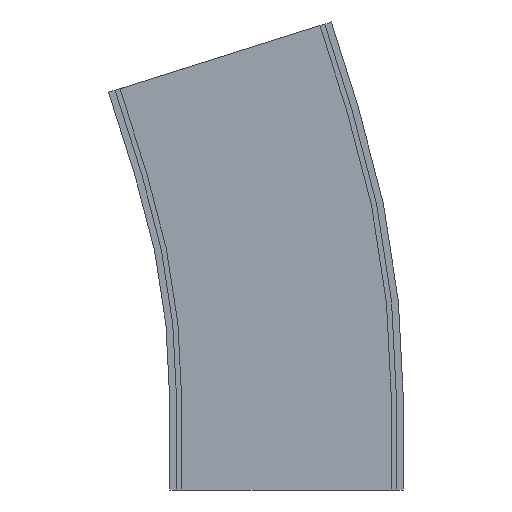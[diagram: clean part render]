
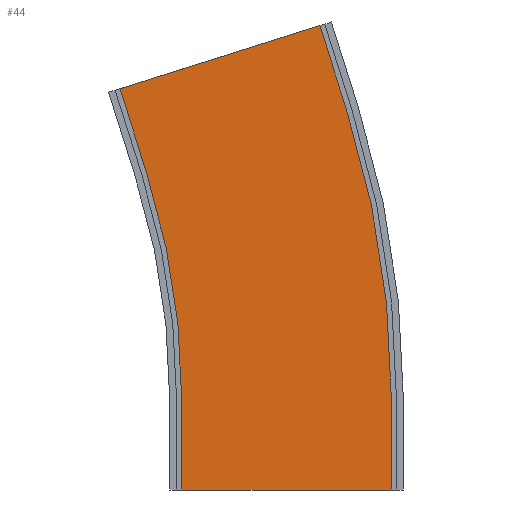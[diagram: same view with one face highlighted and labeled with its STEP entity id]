
A CAD part, left-side view. The second image highlights one B-rep face of the part: STEP entity #44.
In plain terms, the highlighted planar face has unit normal (-1, 0, 0).
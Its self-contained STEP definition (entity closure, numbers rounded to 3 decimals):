
#44 = ADVANCED_FACE ( 'NONE', ( #236 ), #1017, .F. ) ;
#58 = VECTOR ( 'NONE', #1293, 1000. ) ;
#82 = CIRCLE ( 'NONE', #93, 561.25 ) ;
#93 = AXIS2_PLACEMENT_3D ( 'NONE', #866, #443, #332 ) ;
#104 = DIRECTION ( 'NONE',  ( -1., 0., 0. ) ) ;
#133 = ORIENTED_EDGE ( 'NONE', *, *, #899, .F. ) ;
#200 = ORIENTED_EDGE ( 'NONE', *, *, #1327, .F. ) ;
#222 = DIRECTION ( 'NONE',  ( 0., -0.954, 0.301 ) ) ;
#226 = ORIENTED_EDGE ( 'NONE', *, *, #311, .F. ) ;
#236 = FACE_OUTER_BOUND ( 'NONE', #1047, .T. ) ;
#239 = ORIENTED_EDGE ( 'NONE', *, *, #564, .T. ) ;
#271 = DIRECTION ( 'NONE',  ( 0., 1., 0. ) ) ;
#311 = EDGE_CURVE ( 'NONE', #541, #547, #1405, .T. ) ;
#321 = EDGE_CURVE ( 'NONE', #1135, #1025, #710, .T. ) ;
#332 = DIRECTION ( 'NONE',  ( 0., 0., 1. ) ) ;
#419 = LINE ( 'NONE', #1034, #641 ) ;
#423 = CARTESIAN_POINT ( 'NONE',  ( -211.5, 500., 52.5 ) ) ;
#429 = CARTESIAN_POINT ( 'NONE',  ( -211.5, -61.25, 52.5 ) ) ;
#443 = DIRECTION ( 'NONE',  ( -1., 0., 0. ) ) ;
#455 = EDGE_CURVE ( 'NONE', #541, #1135, #778, .T. ) ;
#484 = CARTESIAN_POINT ( 'NONE',  ( -211.5, -19.487, 271.341 ) ) ;
#526 = CARTESIAN_POINT ( 'NONE',  ( -211.5, 61.25, 52.5 ) ) ;
#529 = ORIENTED_EDGE ( 'NONE', *, *, #455, .T. ) ;
#541 = VERTEX_POINT ( 'NONE', #526 ) ;
#547 = VERTEX_POINT ( 'NONE', #970 ) ;
#564 = EDGE_CURVE ( 'NONE', #1129, #724, #82, .T. ) ;
#571 = DIRECTION ( 'NONE',  ( 0., 0., -1. ) ) ;
#582 = DIRECTION ( 'NONE',  ( 0., 0., -1. ) ) ;
#598 = CARTESIAN_POINT ( 'NONE',  ( -211.5, -61.25, 52.5 ) ) ;
#607 = EDGE_CURVE ( 'NONE', #1242, #1312, #1318, .T. ) ;
#641 = VECTOR ( 'NONE', #1361, 1000. ) ;
#673 = VECTOR ( 'NONE', #582, 1000. ) ;
#676 = CARTESIAN_POINT ( 'NONE',  ( -211.5, -35.274, 221.271 ) ) ;
#682 = LINE ( 'NONE', #1061, #58 ) ;
#686 = LINE ( 'NONE', #1223, #860 ) ;
#710 = LINE ( 'NONE', #1186, #1272 ) ;
#724 = VERTEX_POINT ( 'NONE', #676 ) ;
#773 = AXIS2_PLACEMENT_3D ( 'NONE', #598, #815, #271 ) ;
#778 = LINE ( 'NONE', #1226, #673 ) ;
#815 = DIRECTION ( 'NONE',  ( 1., 0., 0. ) ) ;
#860 = VECTOR ( 'NONE', #571, 1000. ) ;
#866 = CARTESIAN_POINT ( 'NONE',  ( -211.5, 500., 52.5 ) ) ;
#882 = ORIENTED_EDGE ( 'NONE', *, *, #607, .F. ) ;
#899 = EDGE_CURVE ( 'NONE', #1129, #1025, #686, .T. ) ;
#901 = ORIENTED_EDGE ( 'NONE', *, *, #1079, .T. ) ;
#970 = CARTESIAN_POINT ( 'NONE',  ( -211.5, 81.557, 184.435 ) ) ;
#981 = DIRECTION ( 'NONE',  ( 0., -1., 0. ) ) ;
#1017 = PLANE ( 'NONE',  #773 ) ;
#1025 = VERTEX_POINT ( 'NONE', #1274 ) ;
#1034 = CARTESIAN_POINT ( 'NONE',  ( -211.5, 81.557, 184.435 ) ) ;
#1047 = EDGE_LOOP ( 'NONE', ( #1090, #133, #239, #901, #882, #200, #226, #529 ) ) ;
#1061 = CARTESIAN_POINT ( 'NONE',  ( -211.5, -35.274, 221.271 ) ) ;
#1067 = VECTOR ( 'NONE', #222, 1000. ) ;
#1079 = EDGE_CURVE ( 'NONE', #724, #1312, #682, .T. ) ;
#1090 = ORIENTED_EDGE ( 'NONE', *, *, #321, .T. ) ;
#1129 = VERTEX_POINT ( 'NONE', #429 ) ;
#1135 = VERTEX_POINT ( 'NONE', #1295 ) ;
#1186 = CARTESIAN_POINT ( 'NONE',  ( -211.5, -61.25, 0. ) ) ;
#1223 = CARTESIAN_POINT ( 'NONE',  ( -211.5, -61.25, 52.5 ) ) ;
#1226 = CARTESIAN_POINT ( 'NONE',  ( -211.5, 61.25, 52.5 ) ) ;
#1242 = VERTEX_POINT ( 'NONE', #1356 ) ;
#1263 = AXIS2_PLACEMENT_3D ( 'NONE', #423, #104, #1407 ) ;
#1272 = VECTOR ( 'NONE', #981, 1000. ) ;
#1274 = CARTESIAN_POINT ( 'NONE',  ( -211.5, -61.25, 0. ) ) ;
#1293 = DIRECTION ( 'NONE',  ( 0., 0.301, 0.954 ) ) ;
#1295 = CARTESIAN_POINT ( 'NONE',  ( -211.5, 61.25, 0. ) ) ;
#1312 = VERTEX_POINT ( 'NONE', #484 ) ;
#1318 = LINE ( 'NONE', #1399, #1067 ) ;
#1327 = EDGE_CURVE ( 'NONE', #547, #1242, #419, .T. ) ;
#1356 = CARTESIAN_POINT ( 'NONE',  ( -211.5, 97.344, 234.505 ) ) ;
#1361 = DIRECTION ( 'NONE',  ( 0., 0.301, 0.954 ) ) ;
#1399 = CARTESIAN_POINT ( 'NONE',  ( -211.5, -19.487, 271.341 ) ) ;
#1405 = CIRCLE ( 'NONE', #1263, 438.75 ) ;
#1407 = DIRECTION ( 'NONE',  ( 0., 0., 1. ) ) ;
